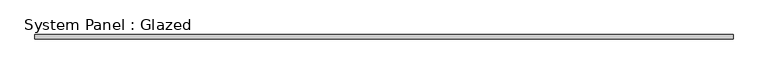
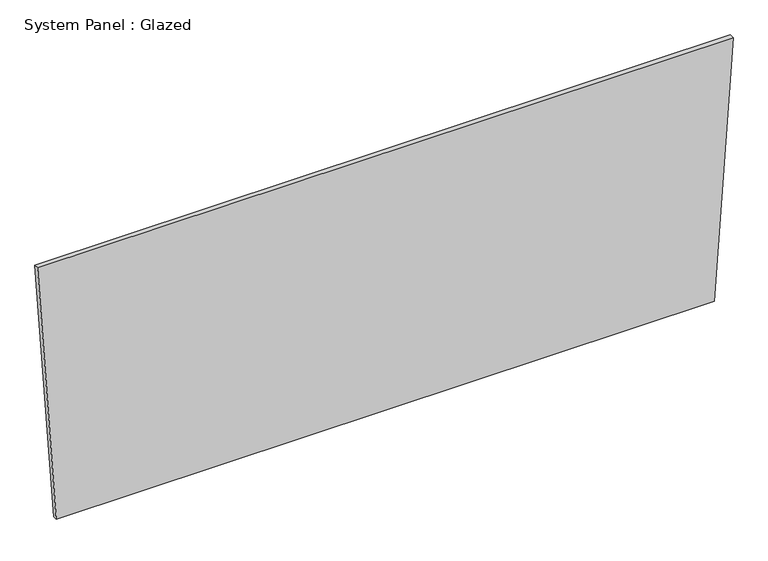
"""IFC4 building model written with IfcOpenShell, lengths in millimetres: plate geometry, System Panel : Glazed."""

from ifc_helpers import new_model, si_unit, frame, origin, place, context, project, spatial, polyline, outline, extrude, source, transform, mapped, element, save


def system_panel_glazed_ead59c80(model_context):
    return source(origin(), model_context, "Body", "SweptSolid", [
        extrude(outline(polyline([(0.0, -1836.1667867), (0.0, 1836.1667867), (1520.432163, 1940.3878862), (1520.432163, -1940.3878862), (0.0, -1836.1667867)])), frame((0.0, -44.45, 0.0), z_axis=(0.0, 1.0, 0.0), x_axis=(0.0, 0.0, 1.0)), (0.0, 0.0, 1.0), 25.4),
    ])


if __name__ == "__main__":
    model = new_model("IFC4")
    model_context = context("Model", 3, world=origin())
    ifc_project = project(units=[si_unit("LENGTHUNIT", "METRE", prefix="MILLI")], contexts=[model_context])
    site = spatial("IfcSite", under=ifc_project)
    building = spatial("IfcBuilding", under=site)
    placement = place(None, origin())
    system_panel_glazed_shape = system_panel_glazed_ead59c80(model_context)
    element("IfcPlate", 1, ObjectType="System Panel : Glazed", at=placement, inside=building, context=model_context, shape_type="MappedRepresentation", body=[
        mapped(system_panel_glazed_shape, transform((0.0, 0.0, 0.0), x_axis=(1.0, 0.0, 0.0), y_axis=(0.0, 1.0, 0.0), z_axis=(0.0, 0.0, 1.0))),
    ])
    save(model, "model.ifc")
